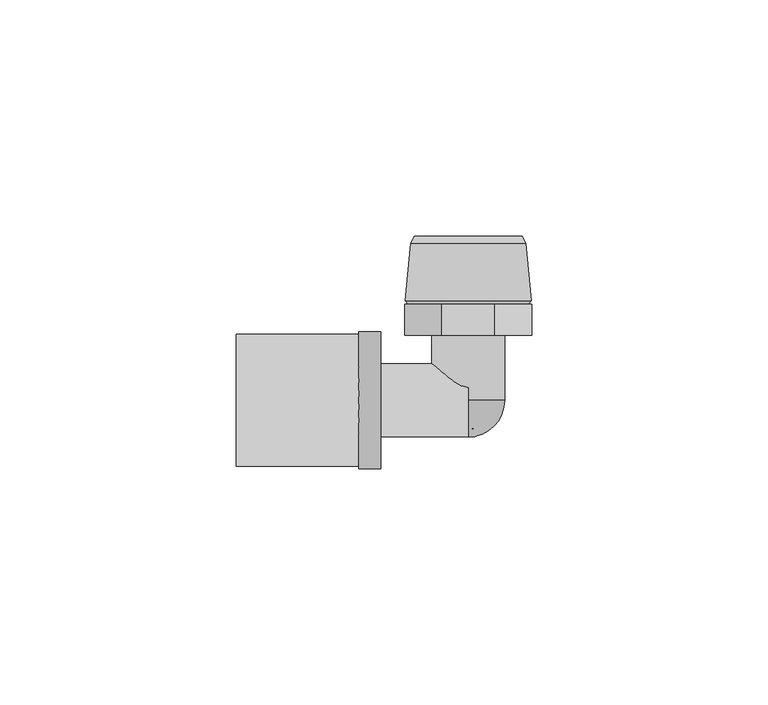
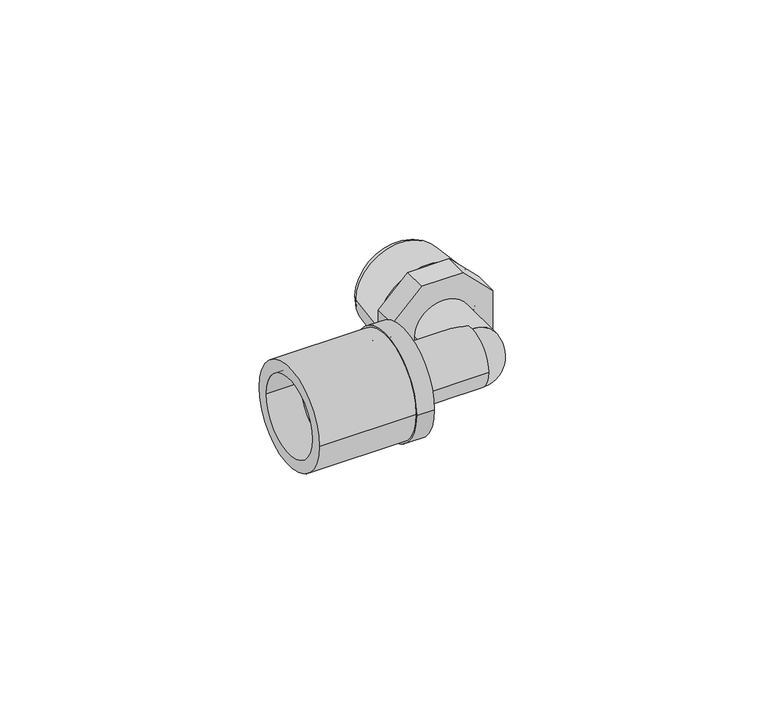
"""IFC4 building model written with IfcOpenShell, lengths in millimetres: pipe fitting geometry, FASTLOC_Elbow with male thread LX : FSL A internal ES."""

from ifc_helpers import new_model, si_unit, point, frame, origin, origin_2d, place, context, project, spatial, polyline, circle_curve, ellipse_curve, trimmed, segment, composite_curve, outline, extrude, source, transform, mapped, element, save
from ifc_brep_helpers import plane_surface, cylinder_surface, revolved_surface, advanced_brep


def pipe_fitting_5e5f22e4(model_context):
    return source(origin(), model_context, "Body", "SolidModel", [
        extrude(outline(composite_curve([segment(trimmed(circle_curve(origin_2d(), 14.0), [point((14.0, 0.0))], [point((-14.0, 0.0))], False, "CARTESIAN"), True, "CONTINUOUS"), segment(trimmed(circle_curve(origin_2d(), 14.0), [point((-14.0, 0.0))], [point((14.0, 0.0))], False, "CARTESIAN"), True, "CONTINUOUS")], self_intersect=False), holes=[composite_curve([segment(trimmed(circle_curve(origin_2d(), 10.7), [point((10.7, 0.0))], [point((-10.7, 0.0))], True, "CARTESIAN"), True, "CONTINUOUS"), segment(trimmed(circle_curve(origin_2d(), 10.7), [point((-10.7, 0.0))], [point((10.7, 0.0))], True, "CARTESIAN"), True, "CONTINUOUS")], self_intersect=False)]), frame((-49.2, 0.0, 0.0), z_axis=(1.0, 0.0, 0.0), x_axis=(0.0, 1.0, 0.0)), (0.0, 0.0, 1.0), 26.0),
        advanced_brep(
        [(-23.2, -14.5, 0.0), (-23.2, 14.5, 0.0), (-18.5, 14.5, 0.0), (-18.5, -14.5, 0.0), (-40.2, -11.85, 0.0), (-40.2, 11.85, 0.0), (-23.2, 11.85, 0.0), (-23.2, -11.85, 0.0), (-18.5, -10.15, 0.0), (-18.5, 10.15, 0.0), (-40.2, 10.15, 0.0), (-40.2, -10.15, 0.0)],
        [
            (0, 1, circle_curve(frame((-23.2, 0.0, 0.0), z_axis=(1.0, 0.0, 0.0), x_axis=(0.0, 1.0, 0.0)), 14.5)),
            (1, 2),
            (2, 3, circle_curve(frame((-18.5, 0.0, 0.0), z_axis=(-1.0, 0.0, 0.0), x_axis=(0.0, 1.0, 0.0)), 14.5)),
            (3, 0),
            (4, 5, circle_curve(frame((-40.2, 0.0, 0.0), z_axis=(1.0, 0.0, 0.0), x_axis=(0.0, 1.0, 0.0)), 11.85)),
            (5, 6),
            (6, 7, circle_curve(frame((-23.2, 0.0, 0.0), z_axis=(-1.0, 0.0, 0.0), x_axis=(0.0, 1.0, 0.0)), 11.85)),
            (7, 4),
            (8, 9, circle_curve(frame((-18.5, 0.0, 0.0), z_axis=(1.0, 0.0, 0.0), x_axis=(0.0, 1.0, 0.0)), 10.15)),
            (9, 10),
            (10, 11, circle_curve(frame((-40.2, 0.0, 0.0), z_axis=(-1.0, 0.0, 0.0), x_axis=(0.0, 1.0, 0.0)), 10.15)),
            (11, 8),
            (1, 0, circle_curve(frame((-23.2, 0.0, 0.0), z_axis=(1.0, 0.0, 0.0), x_axis=(0.0, -1.0, 0.0)), 14.5)),
            (3, 2, circle_curve(frame((-18.5, 0.0, 0.0), z_axis=(-1.0, 0.0, 0.0), x_axis=(0.0, -1.0, 0.0)), 14.5)),
            (6, 7, circle_curve(frame((-23.2, 0.0, 0.0), z_axis=(1.0, 0.0, 0.0), x_axis=(0.0, -1.0, 0.0)), 11.85)),
            (5, 4, circle_curve(frame((-40.2, 0.0, 0.0), z_axis=(1.0, 0.0, 0.0), x_axis=(0.0, -1.0, 0.0)), 11.85)),
            (10, 11, circle_curve(frame((-40.2, 0.0, 0.0), z_axis=(1.0, 0.0, 0.0), x_axis=(0.0, -1.0, 0.0)), 10.15)),
            (9, 8, circle_curve(frame((-18.5, 0.0, 0.0), z_axis=(1.0, 0.0, 0.0), x_axis=(0.0, -1.0, 0.0)), 10.15)),
        ],
        [
            cylinder_surface(frame((-18.5, 0.0, 0.0), z_axis=(-1.0, 0.0, 0.0), x_axis=(0.0, 1.0, 0.0)), 14.5),
            cylinder_surface(frame((-18.5, 0.0, 0.0), z_axis=(-1.0, 0.0, 0.0), x_axis=(0.0, 1.0, 0.0)), 11.85),
            revolved_surface(polyline([(-40.2, 10.15, 0.0), (-18.5, 10.15, 0.0)]), (-18.5, 0.0, 0.0), (-1.0, 0.0, 0.0)),
            cylinder_surface(frame((-18.5, 0.0, 0.0), z_axis=(-1.0, 0.0, 0.0), x_axis=(0.0, -1.0, 0.0)), 14.5),
            plane_surface(frame((-23.2, 0.0, 0.0), z_axis=(-1.0, 0.0, 0.0), x_axis=(0.0, -1.0, 0.0))),
            cylinder_surface(frame((-18.5, 0.0, 0.0), z_axis=(-1.0, 0.0, 0.0), x_axis=(0.0, -1.0, 0.0)), 11.85),
            plane_surface(frame((-40.2, 0.0, 0.0), z_axis=(-1.0, 0.0, 0.0), x_axis=(0.0, -1.0, 0.0))),
            revolved_surface(polyline([(-40.2, -10.15, 0.0), (-18.5, -10.15, 0.0)]), (-18.5, 0.0, 0.0), (-1.0, 0.0, 0.0)),
            plane_surface(frame((-18.5, 0.0, 0.0), z_axis=(1.0, 0.0, 0.0), x_axis=(0.0, -1.0, 0.0))),
        ],
        [
            (0, [[1, 2, 3, 4]]),
            (1, [[5, 6, 7, 8]]),
            (2, [[9, 10, 11, 12]]),
            (3, [[13, -4, 14, -2]]),
            (4, [[-13, -1], [15, -7]]),
            (5, [[16, -8, -15, -6]]),
            (6, [[-16, -5], [17, -11]]),
            (7, [[18, -12, -17, -10]]),
            (8, [[-14, -3], [-18, -9]]),
        ],
    ),
        advanced_brep(
        [(-23.2, 7.75, 0.0), (-23.2, -7.75, 0.0), (-40.6, -7.75, 0.0), (-40.6, 7.75, 0.0), (-20.5, 8.8, 0.0), (-20.5, -8.8, 0.0), (-23.2, -8.8, 0.0), (-23.2, 8.8, 0.0), (0.0, 7.75, 0.0), (0.0, -7.75, 0.0), (-20.5, -7.75, 0.0), (-20.5, 7.75, 0.0), (-40.6, 5.75, 0.0), (-40.6, -5.75, 0.0), (0.0, -5.75, 0.0), (0.0, 5.75, 0.0)],
        [
            (0, 1, circle_curve(frame((-23.2, 0.0, 0.0), z_axis=(-1.0, 0.0, 0.0), x_axis=(0.0, -1.0, 0.0)), 7.75)),
            (1, 2),
            (2, 3, circle_curve(frame((-40.6, 0.0, 0.0), z_axis=(1.0, 0.0, 0.0), x_axis=(0.0, -1.0, 0.0)), 7.75)),
            (3, 0),
            (4, 5, circle_curve(frame((-20.5, 0.0, 0.0), z_axis=(-1.0, 0.0, 0.0), x_axis=(0.0, -1.0, 0.0)), 8.8)),
            (5, 6),
            (6, 7, circle_curve(frame((-23.2, 0.0, 0.0), z_axis=(1.0, 0.0, 0.0), x_axis=(0.0, -1.0, 0.0)), 8.8)),
            (7, 4),
            (8, 9, circle_curve(frame((0.0, 0.0, 0.0), z_axis=(-1.0, 0.0, 0.0), x_axis=(0.0, -1.0, 0.0)), 7.75)),
            (9, 10),
            (10, 11, circle_curve(frame((-20.5, 0.0, 0.0), z_axis=(1.0, 0.0, 0.0), x_axis=(0.0, -1.0, 0.0)), 7.75)),
            (11, 8),
            (12, 13, circle_curve(frame((-40.6, 0.0, 0.0), z_axis=(-1.0, 0.0, 0.0), x_axis=(0.0, -1.0, 0.0)), 5.75)),
            (13, 14),
            (14, 15, circle_curve(frame((0.0, 0.0, 0.0), z_axis=(1.0, 0.0, 0.0), x_axis=(0.0, -1.0, 0.0)), 5.75)),
            (15, 12),
            (2, 3, circle_curve(frame((-40.6, 0.0, 0.0), z_axis=(-1.0, 0.0, 0.0), x_axis=(0.0, 1.0, 0.0)), 7.75)),
            (12, 13, circle_curve(frame((-40.6, 0.0, 0.0), z_axis=(1.0, 0.0, 0.0), x_axis=(0.0, 1.0, 0.0)), 5.75)),
            (1, 0, circle_curve(frame((-23.2, 0.0, 0.0), z_axis=(-1.0, 0.0, 0.0), x_axis=(0.0, 1.0, 0.0)), 7.75)),
            (6, 7, circle_curve(frame((-23.2, 0.0, 0.0), z_axis=(-1.0, 0.0, 0.0), x_axis=(0.0, 1.0, 0.0)), 8.8)),
            (5, 4, circle_curve(frame((-20.5, 0.0, 0.0), z_axis=(-1.0, 0.0, 0.0), x_axis=(0.0, 1.0, 0.0)), 8.8)),
            (10, 11, circle_curve(frame((-20.5, 0.0, 0.0), z_axis=(-1.0, 0.0, 0.0), x_axis=(0.0, 1.0, 0.0)), 7.75)),
            (9, 8, circle_curve(frame((0.0, 0.0, 0.0), z_axis=(-1.0, 0.0, 0.0), x_axis=(0.0, 1.0, 0.0)), 7.75)),
            (14, 15, circle_curve(frame((0.0, 0.0, 0.0), z_axis=(-1.0, 0.0, 0.0), x_axis=(0.0, 1.0, 0.0)), 5.75)),
        ],
        [
            cylinder_surface(frame((0.0, 0.0, 0.0), z_axis=(1.0, 0.0, 0.0), x_axis=(0.0, -1.0, 0.0)), 7.75),
            cylinder_surface(frame((0.0, 0.0, 0.0), z_axis=(1.0, 0.0, 0.0), x_axis=(0.0, -1.0, 0.0)), 8.8),
            revolved_surface(polyline([(0.0, -5.75, 0.0), (-40.6, -5.75, 0.0)]), (0.0, 0.0, 0.0), (1.0, 0.0, 0.0)),
            plane_surface(frame((-40.6, 0.0, 0.0), z_axis=(-1.0, 0.0, 0.0), x_axis=(0.0, 1.0, 0.0))),
            cylinder_surface(frame((0.0, 0.0, 0.0), z_axis=(1.0, 0.0, 0.0), x_axis=(0.0, 1.0, 0.0)), 7.75),
            plane_surface(frame((-23.2, 0.0, 0.0), z_axis=(-1.0, 0.0, 0.0), x_axis=(0.0, 1.0, 0.0))),
            cylinder_surface(frame((0.0, 0.0, 0.0), z_axis=(1.0, 0.0, 0.0), x_axis=(0.0, 1.0, 0.0)), 8.8),
            plane_surface(frame((-20.5, 0.0, 0.0), z_axis=(1.0, 0.0, 0.0), x_axis=(0.0, 1.0, 0.0))),
            plane_surface(frame((0.0, 0.0, 0.0), z_axis=(1.0, 0.0, 0.0), x_axis=(0.0, 1.0, 0.0))),
            revolved_surface(polyline([(0.0, 5.75, 0.0), (-40.6, 5.75, 0.0)]), (0.0, 0.0, 0.0), (1.0, 0.0, 0.0)),
        ],
        [
            (0, [[1, 2, 3, 4]]),
            (1, [[5, 6, 7, 8]]),
            (0, [[9, 10, 11, 12]]),
            (2, [[13, 14, 15, 16]]),
            (3, [[17, -3], [18, -13]]),
            (4, [[19, -4, -17, -2]]),
            (5, [[20, -7], [-19, -1]]),
            (6, [[21, -8, -20, -6]]),
            (7, [[-21, -5], [22, -11]]),
            (4, [[23, -12, -22, -10]]),
            (8, [[-23, -9], [24, -15]]),
            (9, [[-18, -16, -24, -14]]),
        ],
    ),
        advanced_brep(
        [(12.15, 33.3000007, 0.0), (-12.15, 33.3000007, 0.0), (-11.45, 34.8, 0.0), (11.45, 34.8, 0.0), (13.3, 21.0406902, 0.0), (-13.3, 21.0406902, 0.0), (12.7, 20.3, 0.0), (-12.7, 20.3, 0.0), (9.5, 21.4032803, 0.0), (-9.5, 21.4032803, 0.0), (-8.3967197, 20.3, 0.0), (8.3967197, 20.3, 0.0), (9.5, 34.8, 0.0), (-9.5, 34.8, 0.0)],
        [
            (0, 1, circle_curve(frame((0.0, 33.3000007, 0.0), z_axis=(0.0, 1.0, 0.0), x_axis=(-1.0, 0.0, 0.0)), 12.15)),
            (1, 2),
            (2, 3, circle_curve(frame((0.0, 34.8, 0.0), z_axis=(0.0, -1.0, 0.0), x_axis=(-1.0, 0.0, 0.0)), 11.45)),
            (3, 0),
            (4, 5, circle_curve(frame((0.0, 21.0406902, 0.0), z_axis=(0.0, 1.0, 0.0), x_axis=(-1.0, 0.0, 0.0)), 13.3)),
            (5, 1),
            (0, 4),
            (6, 7, circle_curve(frame((0.0, 20.3, 0.0), z_axis=(0.0, 1.0, 0.0), x_axis=(-1.0, 0.0, 0.0)), 12.7)),
            (7, 5),
            (4, 6),
            (8, 9, circle_curve(frame((0.0, 21.4032803, 0.0), z_axis=(0.0, 1.0, 0.0), x_axis=(-1.0, 0.0, 0.0)), 9.5)),
            (9, 10),
            (10, 11, circle_curve(frame((0.0, 20.3, 0.0), z_axis=(0.0, -1.0, 0.0), x_axis=(-1.0, 0.0, 0.0)), 8.3967197)),
            (11, 8),
            (12, 13, circle_curve(frame((0.0, 34.8, 0.0), z_axis=(0.0, 1.0, 0.0), x_axis=(-1.0, 0.0, 0.0)), 9.5)),
            (13, 9),
            (8, 12),
            (2, 3, circle_curve(frame((0.0, 34.8, 0.0), z_axis=(0.0, 1.0, 0.0), x_axis=(1.0, 0.0, 0.0)), 11.45)),
            (12, 13, circle_curve(frame((0.0, 34.8, 0.0), z_axis=(0.0, -1.0, 0.0), x_axis=(1.0, 0.0, 0.0)), 9.5)),
            (1, 0, circle_curve(frame((0.0, 33.3000007, 0.0), z_axis=(0.0, 1.0, 0.0), x_axis=(1.0, 0.0, 0.0)), 12.15)),
            (5, 4, circle_curve(frame((0.0, 21.0406902, 0.0), z_axis=(0.0, 1.0, 0.0), x_axis=(1.0, 0.0, 0.0)), 13.3)),
            (7, 6, circle_curve(frame((0.0, 20.3, 0.0), z_axis=(0.0, 1.0, 0.0), x_axis=(1.0, 0.0, 0.0)), 12.7)),
            (10, 11, circle_curve(frame((0.0, 20.3, 0.0), z_axis=(0.0, 1.0, 0.0), x_axis=(1.0, 0.0, 0.0)), 8.3967197)),
            (9, 8, circle_curve(frame((0.0, 21.4032803, 0.0), z_axis=(0.0, 1.0, 0.0), x_axis=(1.0, 0.0, 0.0)), 9.5)),
        ],
        [
            revolved_surface(polyline([(-11.45, 34.8, 0.0), (-12.15, 33.3000007, 0.0)]), (0.0, 13.8, 0.0), (0.0, -1.0, 0.0)),
            revolved_surface(polyline([(-12.15, 33.3000007, 0.0), (-13.3, 21.0406902, 0.0)]), (0.0, 13.8, 0.0), (0.0, -1.0, 0.0)),
            revolved_surface(polyline([(-13.3, 21.0406902, 0.0), (-12.7, 20.3, 0.0)]), (0.0, 13.8, 0.0), (0.0, -1.0, 0.0)),
            revolved_surface(polyline([(-8.3967197, 20.3, 0.0), (-9.5, 21.4032803, 0.0)]), (0.0, 13.8, 0.0), (0.0, -1.0, 0.0)),
            revolved_surface(polyline([(-9.5, 21.4032803, 0.0), (-9.5, 34.8, 0.0)]), (0.0, 13.8, 0.0), (0.0, -1.0, 0.0)),
            plane_surface(frame((0.0, 34.8, 0.0), z_axis=(0.0, 1.0, 0.0), x_axis=(1.0, 0.0, 0.0))),
            revolved_surface(polyline([(11.45, 34.8, 0.0), (12.15, 33.3000007, 0.0)]), (0.0, 13.8, 0.0), (0.0, -1.0, 0.0)),
            revolved_surface(polyline([(12.15, 33.3000007, 0.0), (13.3, 21.0406902, 0.0)]), (0.0, 13.8, 0.0), (0.0, -1.0, 0.0)),
            revolved_surface(polyline([(13.3, 21.0406902, 0.0), (12.7, 20.3, 0.0)]), (0.0, 13.8, 0.0), (0.0, -1.0, 0.0)),
            plane_surface(frame((0.0, 20.3, 0.0), z_axis=(0.0, -1.0, 0.0), x_axis=(1.0, 0.0, 0.0))),
            revolved_surface(polyline([(8.3967197, 20.3, 0.0), (9.5, 21.4032803, 0.0)]), (0.0, 13.8, 0.0), (0.0, -1.0, 0.0)),
            revolved_surface(polyline([(9.5, 21.4032803, 0.0), (9.5, 34.8, 0.0)]), (0.0, 13.8, 0.0), (0.0, -1.0, 0.0)),
        ],
        [
            (0, [[1, 2, 3, 4]]),
            (1, [[5, 6, -1, 7]]),
            (2, [[8, 9, -5, 10]]),
            (3, [[11, 12, 13, 14]]),
            (4, [[15, 16, -11, 17]]),
            (5, [[18, -3], [19, -15]]),
            (6, [[20, -4, -18, -2]]),
            (7, [[21, -7, -20, -6]]),
            (8, [[22, -10, -21, -9]]),
            (9, [[-22, -8], [23, -13]]),
            (10, [[24, -14, -23, -12]]),
            (11, [[-19, -17, -24, -16]]),
        ],
    ),
        advanced_brep(
        [(0.0, -7.75, 0.0), (0.0, 0.0, 7.75), (0.0, 0.0, 6.0), (0.0, -6.0, 0.0), (0.0, 0.0, -6.0), (0.0, 0.0, -7.75)],
        [
            (0, 1, circle_curve(frame((0.0, 0.0, 0.0), z_axis=(-1.0, 0.0, 0.0), x_axis=(0.0, 0.0, 1.0)), 7.75)),
            (1, 2),
            (2, 3, circle_curve(frame((0.0, 0.0, 0.0), z_axis=(1.0, 0.0, 0.0), x_axis=(0.0, 0.0, 1.0)), 6.0)),
            (3, 0),
            (3, 4, circle_curve(frame((0.0, 0.0, 0.0), z_axis=(1.0, 0.0, 0.0), x_axis=(0.0, 0.0, -1.0)), 6.0)),
            (4, 5),
            (5, 0, circle_curve(frame((0.0, 0.0, 0.0), z_axis=(-1.0, 0.0, 0.0), x_axis=(0.0, 0.0, -1.0)), 7.75)),
            (5, 1, circle_curve(frame((0.0, 0.0, 0.0), z_axis=(0.0, -1.0, 0.0), x_axis=(0.0, 0.0, 1.0)), 7.75)),
            (4, 2, circle_curve(frame((0.0, 0.0, 0.0), z_axis=(0.0, -1.0, 0.0), x_axis=(0.0, 0.0, 1.0)), 6.0)),
        ],
        [
            plane_surface(frame((0.0, 0.0, 0.0), z_axis=(-1.0, 0.0, 0.0), x_axis=(0.0, 0.0, 1.0))),
            plane_surface(frame((0.0, 0.0, 0.0), z_axis=(-1.0, 0.0, 0.0), x_axis=(0.0, 0.0, -1.0))),
            revolved_surface(trimmed(ellipse_curve(frame((0.0, 0.0, 0.0), z_axis=(-1.0, 0.0, 0.0), x_axis=(0.0, 0.0, 1.0)), 7.75, 7.75), [point((0.0, -7.75, 0.0))], [point((0.0, 0.0, 7.75))], True, "CARTESIAN"), (0.0, 0.0, 0.0), (0.0, 1.0, 0.0)),
            plane_surface(frame((0.0, 0.0, 0.0), z_axis=(0.0, 1.0, 0.0), x_axis=(0.0, 0.0, 1.0))),
            revolved_surface(trimmed(ellipse_curve(frame((0.0, 0.0, 0.0), z_axis=(1.0, 0.0, 0.0), x_axis=(0.0, 0.0, 1.0)), 6.0, 6.0), [point((0.0, 0.0, 6.0))], [point((0.0, -6.0, 0.0))], True, "CARTESIAN"), (0.0, 0.0, 0.0), (0.0, 1.0, 0.0)),
        ],
        [
            (0, [[1, 2, 3, 4]]),
            (1, [[5, 6, 7, -4]]),
            (2, [[8, -1, -7]]),
            (3, [[9, -2, -8, -6]]),
            (4, [[-3, -9, -5]]),
        ],
    ),
        extrude(outline(polyline([(-13.5, 5.5918831), (-5.5918831, 13.5), (5.5918831, 13.5), (13.5, 5.5918831), (13.5, -5.5918831), (5.5918831, -13.5), (-5.5918831, -13.5), (-13.5, -5.5918831), (-13.5, 5.5918831)])), frame((0.0, 13.8, 0.0), z_axis=(0.0, 1.0, 0.0), x_axis=(0.0, 0.0, 1.0)), (0.0, 0.0, 1.0), 6.5),
        extrude(outline(composite_curve([segment(trimmed(circle_curve(origin_2d(), 7.75), [point((0.0, -7.75))], [point((0.0, 7.75))], False, "CARTESIAN"), True, "CONTINUOUS"), segment(trimmed(circle_curve(origin_2d(), 7.75), [point((0.0, 7.75))], [point((0.0, -7.75))], False, "CARTESIAN"), True, "CONTINUOUS")], self_intersect=False), holes=[composite_curve([segment(trimmed(circle_curve(origin_2d(), 5.75), [point((0.0, -5.75))], [point((0.0, 5.75))], True, "CARTESIAN"), True, "CONTINUOUS"), segment(trimmed(circle_curve(origin_2d(), 5.75), [point((0.0, 5.75))], [point((0.0, -5.75))], True, "CARTESIAN"), True, "CONTINUOUS")], self_intersect=False)]), frame((0.0, 0.0, 0.0), z_axis=(0.0, 1.0, 0.0), x_axis=(0.0, 0.0, 1.0)), (0.0, 0.0, 1.0), 13.8),
    ])


if __name__ == "__main__":
    model = new_model("IFC4")
    model_context = context("Model", 3, world=origin())
    ifc_project = project(units=[si_unit("LENGTHUNIT", "METRE", prefix="MILLI")], contexts=[model_context])
    site = spatial("IfcSite", under=ifc_project)
    building = spatial("IfcBuilding", under=site)
    placement = place(None, origin())
    pipe_fitting_shape = pipe_fitting_5e5f22e4(model_context)
    element("IfcPipeFitting", 1, ObjectType="FASTLOC_Elbow with male thread LX : FSL A internal ES", at=placement, inside=building, context=model_context, shape_type="MappedRepresentation", body=[
        mapped(pipe_fitting_shape, transform((0.0, 0.0, 0.0), x_axis=(1.0, 0.0, 0.0), y_axis=(0.0, 1.0, 0.0), z_axis=(0.0, 0.0, 1.0))),
    ])
    save(model, "model.ifc")
